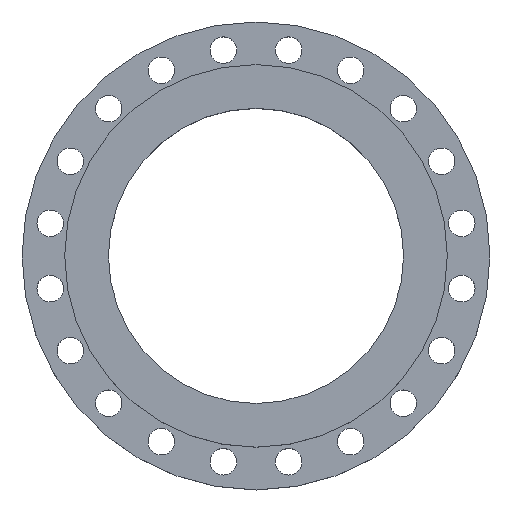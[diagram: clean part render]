
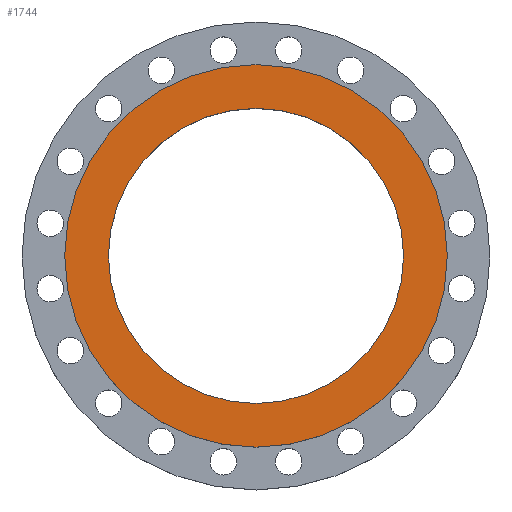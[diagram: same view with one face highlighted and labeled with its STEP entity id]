
A CAD part, top view. The second image highlights one B-rep face of the part: STEP entity #1744.
In plain terms, the highlighted planar face has unit normal (0, 0, 1).
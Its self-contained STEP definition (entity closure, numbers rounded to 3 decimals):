
#32 = ORIENTED_EDGE ( 'NONE', *, *, #870, .T. ) ;
#66 = CARTESIAN_POINT ( 'NONE',  ( 0., 0., 46. ) ) ;
#84 = CIRCLE ( 'NONE', #174, 216. ) ;
#105 = AXIS2_PLACEMENT_3D ( 'NONE', #1833, #292, #989 ) ;
#174 = AXIS2_PLACEMENT_3D ( 'NONE', #66, #745, #1448 ) ;
#175 = VERTEX_POINT ( 'NONE', #344 ) ;
#203 = VERTEX_POINT ( 'NONE', #1048 ) ;
#292 = DIRECTION ( 'NONE',  ( 0., 0., 1. ) ) ;
#340 = CARTESIAN_POINT ( 'NONE',  ( 0., 0., 46. ) ) ;
#344 = CARTESIAN_POINT ( 'NONE',  ( -216., 0., 46. ) ) ;
#379 = DIRECTION ( 'NONE',  ( 1., 0., 0. ) ) ;
#387 = VERTEX_POINT ( 'NONE', #964 ) ;
#454 = FACE_BOUND ( 'NONE', #1474, .T. ) ;
#484 = ORIENTED_EDGE ( 'NONE', *, *, #633, .F. ) ;
#589 = EDGE_LOOP ( 'NONE', ( #32, #1950 ) ) ;
#612 = EDGE_CURVE ( 'NONE', #203, #387, #939, .T. ) ;
#633 = EDGE_CURVE ( 'NONE', #1635, #175, #84, .T. ) ;
#670 = CARTESIAN_POINT ( 'NONE',  ( 0., 0., 46. ) ) ;
#745 = DIRECTION ( 'NONE',  ( 0., 0., 1. ) ) ;
#870 = EDGE_CURVE ( 'NONE', #387, #203, #1218, .T. ) ;
#939 = CIRCLE ( 'NONE', #942, 280. ) ;
#942 = AXIS2_PLACEMENT_3D ( 'NONE', #1269, #1904, #379 ) ;
#964 = CARTESIAN_POINT ( 'NONE',  ( 280., 0., 46. ) ) ;
#989 = DIRECTION ( 'NONE',  ( 1., 0., 0. ) ) ;
#1042 = DIRECTION ( 'NONE',  ( 0., 0., 1. ) ) ;
#1048 = CARTESIAN_POINT ( 'NONE',  ( -280., 0., 46. ) ) ;
#1163 = PLANE ( 'NONE',  #105 ) ;
#1218 = CIRCLE ( 'NONE', #1225, 280. ) ;
#1224 = AXIS2_PLACEMENT_3D ( 'NONE', #670, #1381, #1983 ) ;
#1225 = AXIS2_PLACEMENT_3D ( 'NONE', #340, #1042, #1738 ) ;
#1269 = CARTESIAN_POINT ( 'NONE',  ( 0., 0., 46. ) ) ;
#1308 = CIRCLE ( 'NONE', #1224, 216. ) ;
#1381 = DIRECTION ( 'NONE',  ( 0., 0., 1. ) ) ;
#1448 = DIRECTION ( 'NONE',  ( 1., 0., 0. ) ) ;
#1474 = EDGE_LOOP ( 'NONE', ( #484, #1729 ) ) ;
#1514 = EDGE_CURVE ( 'NONE', #175, #1635, #1308, .T. ) ;
#1635 = VERTEX_POINT ( 'NONE', #1906 ) ;
#1729 = ORIENTED_EDGE ( 'NONE', *, *, #1514, .F. ) ;
#1738 = DIRECTION ( 'NONE',  ( 1., 0., 0. ) ) ;
#1744 = ADVANCED_FACE ( 'NONE', ( #1956, #454 ), #1163, .T. ) ;
#1833 = CARTESIAN_POINT ( 'NONE',  ( 216., 0., 46. ) ) ;
#1904 = DIRECTION ( 'NONE',  ( 0., 0., 1. ) ) ;
#1906 = CARTESIAN_POINT ( 'NONE',  ( 216., 0., 46. ) ) ;
#1950 = ORIENTED_EDGE ( 'NONE', *, *, #612, .T. ) ;
#1956 = FACE_OUTER_BOUND ( 'NONE', #589, .T. ) ;
#1983 = DIRECTION ( 'NONE',  ( 1., 0., 0. ) ) ;
